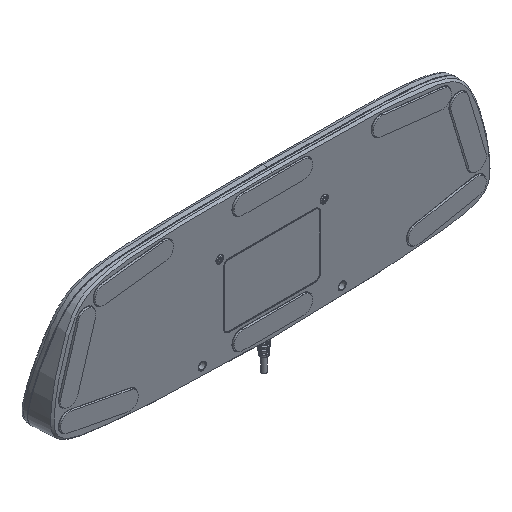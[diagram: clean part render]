
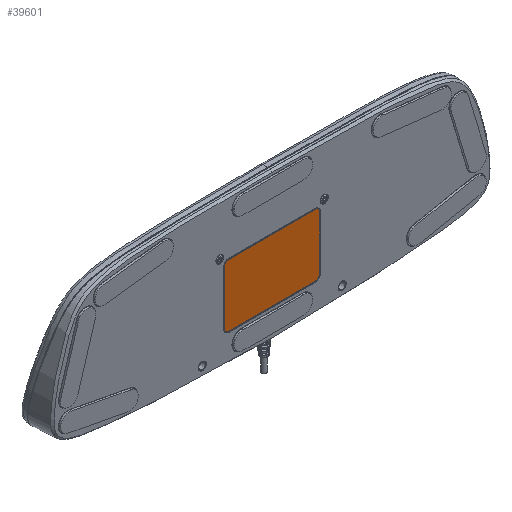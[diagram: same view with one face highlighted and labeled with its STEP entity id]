
A CAD part, isometric view. The second image highlights one B-rep face of the part: STEP entity #39601.
In plain terms, the highlighted planar face has unit normal (0, -1, 0).
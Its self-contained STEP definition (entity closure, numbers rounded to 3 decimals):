
#217 = DIRECTION ( 'NONE',  ( 0., 0., -1. ) ) ;
#836 = CIRCLE ( 'NONE', #40216, 5.5 ) ;
#3025 = VERTEX_POINT ( 'NONE', #33628 ) ;
#4201 = EDGE_LOOP ( 'NONE', ( #11813, #38851, #13287, #85525, #39597, #30796, #71715, #56929 ) ) ;
#4881 = CARTESIAN_POINT ( 'NONE',  ( 49.539, -4., 20.99 ) ) ;
#5277 = AXIS2_PLACEMENT_3D ( 'NONE', #77800, #85986, #69303 ) ;
#6008 = CIRCLE ( 'NONE', #38738, 5.5 ) ;
#9082 = CIRCLE ( 'NONE', #5277, 5.5 ) ;
#11813 = ORIENTED_EDGE ( 'NONE', *, *, #42579, .F. ) ;
#12119 = DIRECTION ( 'NONE',  ( -1., 0., 0. ) ) ;
#13287 = ORIENTED_EDGE ( 'NONE', *, *, #65830, .F. ) ;
#13502 = AXIS2_PLACEMENT_3D ( 'NONE', #48371, #87652, #64460 ) ;
#14726 = CARTESIAN_POINT ( 'NONE',  ( -49.461, -4., -45.51 ) ) ;
#15263 = VERTEX_POINT ( 'NONE', #47338 ) ;
#17300 = VERTEX_POINT ( 'NONE', #57894 ) ;
#19420 = DIRECTION ( 'NONE',  ( 0., 0., -1. ) ) ;
#19828 = VERTEX_POINT ( 'NONE', #39178 ) ;
#24306 = EDGE_CURVE ( 'NONE', #68211, #60782, #64454, .T. ) ;
#25769 = CARTESIAN_POINT ( 'NONE',  ( -54.961, -4., -45.51 ) ) ;
#26527 = VECTOR ( 'NONE', #58014, 1000. ) ;
#27318 = LINE ( 'NONE', #4881, #84780 ) ;
#27721 = EDGE_CURVE ( 'NONE', #19828, #75397, #27318, .T. ) ;
#30796 = ORIENTED_EDGE ( 'NONE', *, *, #85752, .F. ) ;
#31992 = CIRCLE ( 'NONE', #36103, 5.5 ) ;
#32400 = DIRECTION ( 'NONE',  ( 0., 1., 0. ) ) ;
#33628 = CARTESIAN_POINT ( 'NONE',  ( 49.539, -4., -51.01 ) ) ;
#34556 = EDGE_CURVE ( 'NONE', #71056, #3025, #6008, .T. ) ;
#36103 = AXIS2_PLACEMENT_3D ( 'NONE', #87110, #32400, #217 ) ;
#37112 = EDGE_CURVE ( 'NONE', #17300, #68211, #836, .T. ) ;
#37866 = CARTESIAN_POINT ( 'NONE',  ( 55.039, -4., -45.51 ) ) ;
#38371 = DIRECTION ( 'NONE',  ( 0., 0., -1. ) ) ;
#38738 = AXIS2_PLACEMENT_3D ( 'NONE', #73107, #81640, #64621 ) ;
#38851 = ORIENTED_EDGE ( 'NONE', *, *, #34556, .F. ) ;
#39178 = CARTESIAN_POINT ( 'NONE',  ( -49.461, -4., 20.99 ) ) ;
#39597 = ORIENTED_EDGE ( 'NONE', *, *, #27721, .F. ) ;
#39601 = ADVANCED_FACE ( 'NONE', ( #82724 ), #49406, .F. ) ;
#40216 = AXIS2_PLACEMENT_3D ( 'NONE', #14726, #61988, #38371 ) ;
#40469 = CARTESIAN_POINT ( 'NONE',  ( 49.539, -4., 20.99 ) ) ;
#42255 = VECTOR ( 'NONE', #12119, 1000. ) ;
#42579 = EDGE_CURVE ( 'NONE', #3025, #17300, #70415, .T. ) ;
#43578 = CARTESIAN_POINT ( 'NONE',  ( -54.961, -4., 15.49 ) ) ;
#45278 = DIRECTION ( 'NONE',  ( 1., 0., 0. ) ) ;
#47338 = CARTESIAN_POINT ( 'NONE',  ( 55.039, -4., 15.49 ) ) ;
#48371 = CARTESIAN_POINT ( 'NONE',  ( -546.15, -4., -153.11 ) ) ;
#49406 = PLANE ( 'NONE',  #13502 ) ;
#50273 = CARTESIAN_POINT ( 'NONE',  ( 55.039, -4., -45.51 ) ) ;
#56127 = VECTOR ( 'NONE', #19420, 1000. ) ;
#56929 = ORIENTED_EDGE ( 'NONE', *, *, #37112, .F. ) ;
#57894 = CARTESIAN_POINT ( 'NONE',  ( -49.461, -4., -51.01 ) ) ;
#58014 = DIRECTION ( 'NONE',  ( 0., 0., 1. ) ) ;
#60417 = CARTESIAN_POINT ( 'NONE',  ( -49.461, -4., -51.01 ) ) ;
#60782 = VERTEX_POINT ( 'NONE', #75954 ) ;
#61988 = DIRECTION ( 'NONE',  ( 0., 1., 0. ) ) ;
#64454 = LINE ( 'NONE', #43578, #26527 ) ;
#64460 = DIRECTION ( 'NONE',  ( 0., 0., 1. ) ) ;
#64621 = DIRECTION ( 'NONE',  ( 0., 0., -1. ) ) ;
#65830 = EDGE_CURVE ( 'NONE', #15263, #71056, #67104, .T. ) ;
#67104 = LINE ( 'NONE', #50273, #56127 ) ;
#68211 = VERTEX_POINT ( 'NONE', #25769 ) ;
#69303 = DIRECTION ( 'NONE',  ( 0., 0., -1. ) ) ;
#70415 = LINE ( 'NONE', #60417, #42255 ) ;
#71056 = VERTEX_POINT ( 'NONE', #37866 ) ;
#71715 = ORIENTED_EDGE ( 'NONE', *, *, #24306, .F. ) ;
#73107 = CARTESIAN_POINT ( 'NONE',  ( 49.539, -4., -45.51 ) ) ;
#75397 = VERTEX_POINT ( 'NONE', #40469 ) ;
#75954 = CARTESIAN_POINT ( 'NONE',  ( -54.961, -4., 15.49 ) ) ;
#77800 = CARTESIAN_POINT ( 'NONE',  ( 49.539, -4., 15.49 ) ) ;
#81640 = DIRECTION ( 'NONE',  ( 0., 1., 0. ) ) ;
#82724 = FACE_OUTER_BOUND ( 'NONE', #4201, .T. ) ;
#84780 = VECTOR ( 'NONE', #45278, 1000. ) ;
#85525 = ORIENTED_EDGE ( 'NONE', *, *, #98976, .F. ) ;
#85752 = EDGE_CURVE ( 'NONE', #60782, #19828, #31992, .T. ) ;
#85986 = DIRECTION ( 'NONE',  ( 0., 1., 0. ) ) ;
#87110 = CARTESIAN_POINT ( 'NONE',  ( -49.461, -4., 15.49 ) ) ;
#87652 = DIRECTION ( 'NONE',  ( 0., 1., 0. ) ) ;
#98976 = EDGE_CURVE ( 'NONE', #75397, #15263, #9082, .T. ) ;
